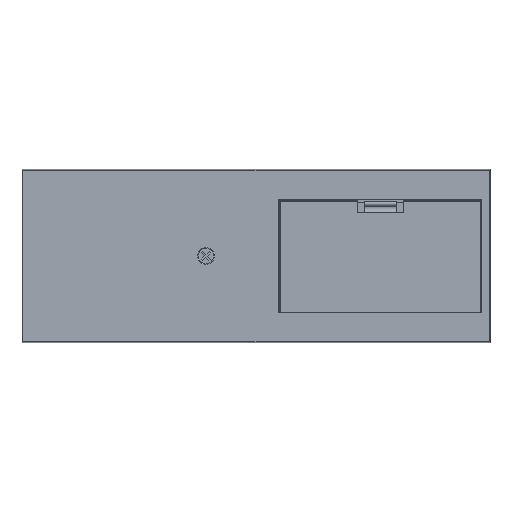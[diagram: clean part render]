
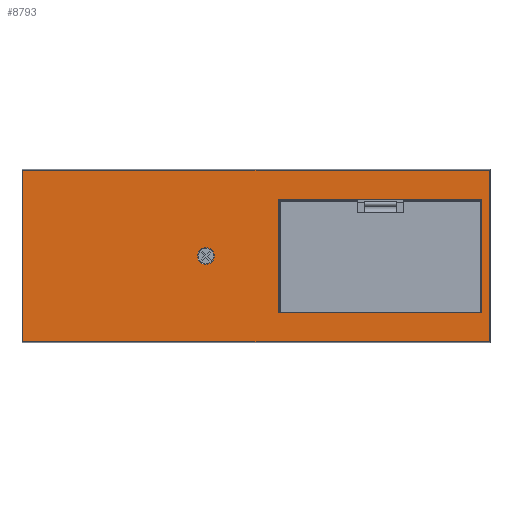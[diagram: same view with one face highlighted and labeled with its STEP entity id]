
A CAD part, front view. The second image highlights one B-rep face of the part: STEP entity #8793.
In plain terms, the highlighted planar face has unit normal (0, -1, 0).
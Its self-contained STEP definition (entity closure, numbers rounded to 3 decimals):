
#13 = CARTESIAN_POINT ( 'NONE',  ( -13.609, 0., 2.25 ) ) ;
#342 = LINE ( 'NONE', #4386, #2866 ) ;
#360 = DIRECTION ( 'NONE',  ( 1., 0., 0. ) ) ;
#788 = LINE ( 'NONE', #7217, #1730 ) ;
#879 = EDGE_CURVE ( 'Arista4', #12436, #18420, #1590, .T. ) ;
#954 = PLANE ( 'NONE',  #9389 ) ;
#957 = ORIENTED_EDGE ( 'NONE', *, *, #5841, .F. ) ;
#1012 = ORIENTED_EDGE ( 'NONE', *, *, #1157, .F. ) ;
#1024 = DIRECTION ( 'NONE',  ( 0., 0., 1. ) ) ;
#1092 = ORIENTED_EDGE ( 'NONE', *, *, #8282, .T. ) ;
#1157 = EDGE_CURVE ( 'NONE', #4935, #14580, #19027, .T. ) ;
#1337 = ORIENTED_EDGE ( 'NONE', *, *, #3862, .T. ) ;
#1590 = LINE ( 'NONE', #6646, #5946 ) ;
#1730 = VECTOR ( 'NONE', #17463, 1000. ) ;
#1793 = CARTESIAN_POINT ( 'NONE',  ( -63.3, 0., 23.33 ) ) ;
#2500 = LINE ( 'NONE', #1793, #13288 ) ;
#2779 = CARTESIAN_POINT ( 'NONE',  ( 61.241, 0., 15.4 ) ) ;
#2837 = CARTESIAN_POINT ( 'NONE',  ( 61.241, 0., -15.4 ) ) ;
#2844 = CARTESIAN_POINT ( 'NONE',  ( -63.3, 0., 23.33 ) ) ;
#2866 = VECTOR ( 'NONE', #10280, 1000. ) ;
#2875 = VERTEX_POINT ( 'NONE', #18455 ) ;
#2909 = DIRECTION ( 'NONE',  ( 0., 0., 1. ) ) ;
#2922 = DIRECTION ( 'NONE',  ( -1., 0., 0. ) ) ;
#3292 = DIRECTION ( 'NONE',  ( 0., 0., 1. ) ) ;
#3782 = ORIENTED_EDGE ( 'NONE', *, *, #16256, .F. ) ;
#3862 = EDGE_CURVE ( 'NONE', #18991, #18187, #17372, .T. ) ;
#3889 = CARTESIAN_POINT ( 'NONE',  ( -13.609, 0., 0. ) ) ;
#3931 = ORIENTED_EDGE ( 'NONE', *, *, #11390, .T. ) ;
#4036 = CARTESIAN_POINT ( 'NONE',  ( 63.3, 0., 23.33 ) ) ;
#4079 = EDGE_LOOP ( 'NONE', ( #957, #3782, #1012, #15785 ) ) ;
#4386 = CARTESIAN_POINT ( 'NONE',  ( 63.3, 0., -23.33 ) ) ;
#4935 = VERTEX_POINT ( 'NONE', #12848 ) ;
#5366 = DIRECTION ( 'NONE',  ( 0., 0., 1. ) ) ;
#5374 = CARTESIAN_POINT ( 'NONE',  ( -13.609, 0., 0. ) ) ;
#5841 = EDGE_CURVE ( 'Arista1', #12922, #2875, #342, .T. ) ;
#5867 = CARTESIAN_POINT ( 'NONE',  ( -63.3, 0., -23.33 ) ) ;
#5946 = VECTOR ( 'NONE', #14004, 1000. ) ;
#6050 = LINE ( 'NONE', #5867, #13378 ) ;
#6146 = CARTESIAN_POINT ( 'NONE',  ( -63.3, 0., -23.33 ) ) ;
#6646 = CARTESIAN_POINT ( 'NONE',  ( 6.241, 0., -15.4 ) ) ;
#6737 = FACE_BOUND ( 'NONE', #16801, .T. ) ;
#6825 = DIRECTION ( 'NONE',  ( 0., 0., 1. ) ) ;
#7217 = CARTESIAN_POINT ( 'NONE',  ( 6.241, 0., 15.4 ) ) ;
#8282 = EDGE_CURVE ( 'NONE', #17546, #11567, #788, .T. ) ;
#8793 = ADVANCED_FACE ( 'Cara9', ( #6737, #11132, #18445 ), #954, .F. ) ;
#8856 = AXIS2_PLACEMENT_3D ( 'NONE', #3889, #14101, #5366 ) ;
#9080 = AXIS2_PLACEMENT_3D ( 'NONE', #5374, #15586, #6825 ) ;
#9360 = ORIENTED_EDGE ( 'NONE', *, *, #11585, .T. ) ;
#9389 = AXIS2_PLACEMENT_3D ( 'NONE', #15630, #9818, #1024 ) ;
#9552 = CARTESIAN_POINT ( 'NONE',  ( 6.241, 0., 15.4 ) ) ;
#9710 = LINE ( 'NONE', #18218, #17498 ) ;
#9722 = EDGE_CURVE ( 'NONE', #2875, #4935, #6050, .T. ) ;
#9818 = DIRECTION ( 'NONE',  ( 0., 1., 0. ) ) ;
#9906 = CARTESIAN_POINT ( 'NONE',  ( -13.609, 0., -2.25 ) ) ;
#10280 = DIRECTION ( 'NONE',  ( 0., 0., -1. ) ) ;
#10425 = CARTESIAN_POINT ( 'NONE',  ( 6.241, 0., -15.4 ) ) ;
#10794 = VECTOR ( 'NONE', #2909, 1000. ) ;
#11132 = FACE_BOUND ( 'NONE', #13307, .T. ) ;
#11234 = VECTOR ( 'NONE', #3292, 1000. ) ;
#11390 = EDGE_CURVE ( 'NONE', #18187, #18991, #17434, .T. ) ;
#11567 = VERTEX_POINT ( 'NONE', #2779 ) ;
#11585 = EDGE_CURVE ( 'NONE', #18420, #17546, #14644, .T. ) ;
#11699 = CARTESIAN_POINT ( 'NONE',  ( 6.241, 0., -15.4 ) ) ;
#12385 = DIRECTION ( 'NONE',  ( 0., 0., -1. ) ) ;
#12436 = VERTEX_POINT ( 'NONE', #2837 ) ;
#12848 = CARTESIAN_POINT ( 'NONE',  ( -63.3, 0., -23.33 ) ) ;
#12922 = VERTEX_POINT ( 'NONE', #4036 ) ;
#12985 = ORIENTED_EDGE ( 'NONE', *, *, #879, .T. ) ;
#13288 = VECTOR ( 'NONE', #360, 1000. ) ;
#13307 = EDGE_LOOP ( 'NONE', ( #12985, #9360, #1092, #16219 ) ) ;
#13378 = VECTOR ( 'NONE', #2922, 1000. ) ;
#13765 = EDGE_CURVE ( 'NONE', #11567, #12436, #9710, .T. ) ;
#14004 = DIRECTION ( 'NONE',  ( -1., 0., 0. ) ) ;
#14101 = DIRECTION ( 'NONE',  ( 0., 1., 0. ) ) ;
#14580 = VERTEX_POINT ( 'NONE', #2844 ) ;
#14644 = LINE ( 'NONE', #11699, #10794 ) ;
#15586 = DIRECTION ( 'NONE',  ( 0., 1., 0. ) ) ;
#15630 = CARTESIAN_POINT ( 'NONE',  ( 0., 0., 0. ) ) ;
#15785 = ORIENTED_EDGE ( 'NONE', *, *, #9722, .F. ) ;
#16219 = ORIENTED_EDGE ( 'NONE', *, *, #13765, .T. ) ;
#16256 = EDGE_CURVE ( 'NONE', #14580, #12922, #2500, .T. ) ;
#16801 = EDGE_LOOP ( 'NONE', ( #3931, #1337 ) ) ;
#17372 = CIRCLE ( 'NONE', #9080, 2.25 ) ;
#17434 = CIRCLE ( 'NONE', #8856, 2.25 ) ;
#17463 = DIRECTION ( 'NONE',  ( 1., 0., 0. ) ) ;
#17498 = VECTOR ( 'NONE', #12385, 1000. ) ;
#17546 = VERTEX_POINT ( 'NONE', #9552 ) ;
#18187 = VERTEX_POINT ( 'NONE', #9906 ) ;
#18218 = CARTESIAN_POINT ( 'NONE',  ( 61.241, 0., -15.4 ) ) ;
#18420 = VERTEX_POINT ( 'NONE', #10425 ) ;
#18445 = FACE_OUTER_BOUND ( 'NONE', #4079, .T. ) ;
#18455 = CARTESIAN_POINT ( 'NONE',  ( 63.3, 0., -23.33 ) ) ;
#18991 = VERTEX_POINT ( 'NONE', #13 ) ;
#19027 = LINE ( 'NONE', #6146, #11234 ) ;
